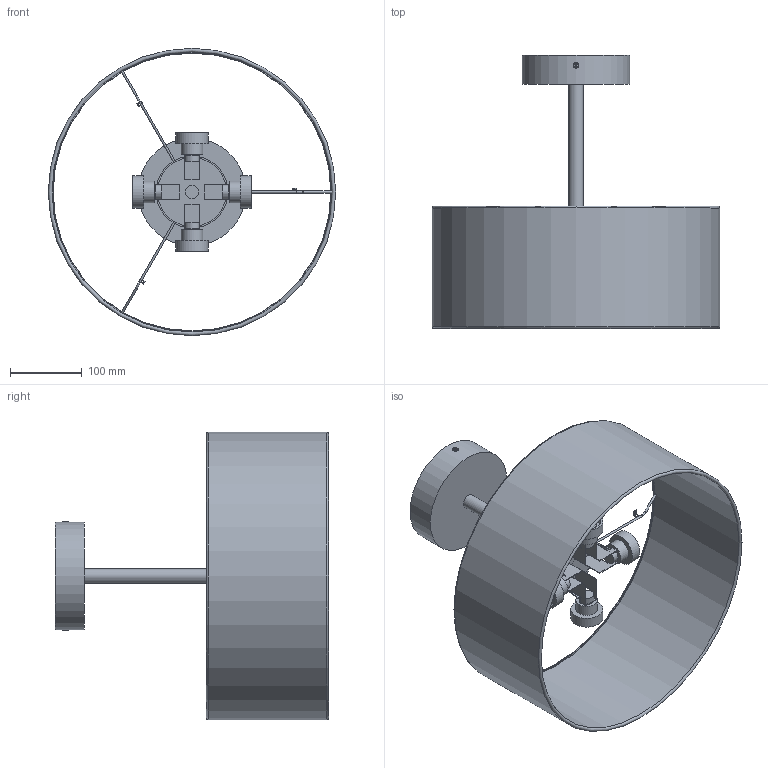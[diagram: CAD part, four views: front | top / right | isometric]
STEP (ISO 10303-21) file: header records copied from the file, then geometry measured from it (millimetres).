
FILE_DESCRIPTION(/* description */ (''),/* implementation_level */ '2;1');
FILE_NAME(/* name */ 'C:/Users/kubaw/OneDrive/Pulpit/Nowy folder/4243_RONDO/4243_RONDO v4.step',/* time_stamp */ '2021-03-13T09:26:52+01:00',/* author */ (''),/* organization */ (''),/* preprocessor_version */ 'ST-DEVELOPER v18.1',/* originating_system */ 'Autodesk Translation Framework v9.10.0.1330',/* authorisation */ '');
FILE_SCHEMA (('AUTOMOTIVE_DESIGN { 1 0 10303 214 3 1 1 }'));
Length unit declared in the file: millimetre
Products named in the file (5): 4243_RONDO; MOCOWANIE; MOCOWANIE RONDO 4242; ŚRUBA _RONDO; ŚRUBA _RONDO v1(Mirror)
Assembly tree (4 placements, depth 3):
  4243_RONDO
    MOCOWANIE
      MOCOWANIE RONDO 4242
    ŚRUBA _RONDO
    ŚRUBA _RONDO v1(Mirror)
Bounding box: 400 x 380 x 400 mm (x, y, z)
Volume: 1964353.7 mm3; surface area: 613209.3 mm2
Topology: 42 solids, 42 shells, 417 faces, 992 edges, 650 vertices
Faces by surface type: plane 314, cylinder 86, torus 15, bspline 2
Full cylindrical faces by diameter (mm): 3 x6, 8 x2, 10 x1, 14.819 x8, 18 x2, 20 x2, 20.058 x4, 28.544 x4, 30 x4, 40 x4, 45 x4, 96 x1, 100 x1, 150 x1, 386.602 x1, 390 x1, 400 x1
Entity records: 12304 total; most frequent: CARTESIAN_POINT 2249, DIRECTION 2043, ORIENTED_EDGE 1984, EDGE_CURVE 992, LINE 743, VECTOR 743, VERTEX_POINT 650, AXIS2_PLACEMENT_3D 650
